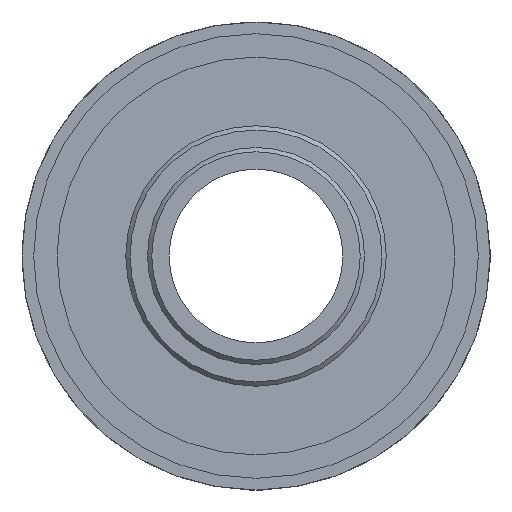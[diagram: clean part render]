
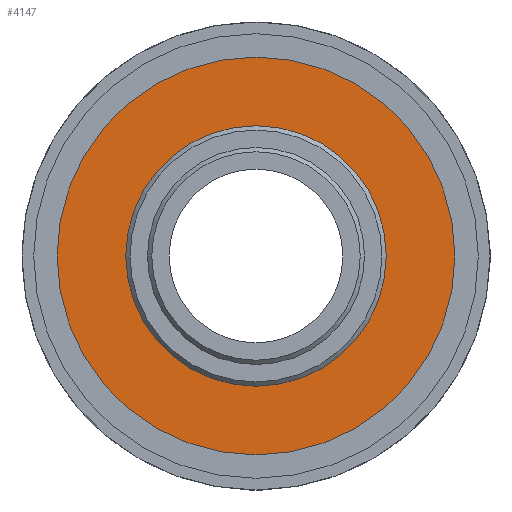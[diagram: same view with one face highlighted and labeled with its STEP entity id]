
A CAD part, left-side view. The second image highlights one B-rep face of the part: STEP entity #4147.
In plain terms, the highlighted planar face has unit normal (-1, 0, 0).
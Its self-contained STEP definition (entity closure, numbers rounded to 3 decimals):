
#290=FACE_BOUND('',#857,.T.);
#312=CIRCLE('',#4440,24.225);
#564=FACE_OUTER_BOUND('',#856,.T.);
#856=EDGE_LOOP('',(#2781));
#857=EDGE_LOOP('',(#2782,#2783,#2784,#2785,#2786,#2787,#2788,#2789,#2790,
#2791,#2792,#2793));
#1132=LINE('',#6226,#1408);
#1136=LINE('',#6234,#1412);
#1139=LINE('',#6240,#1415);
#1142=LINE('',#6246,#1418);
#1145=LINE('',#6252,#1421);
#1148=LINE('',#6258,#1424);
#1151=LINE('',#6264,#1427);
#1154=LINE('',#6270,#1430);
#1158=LINE('',#6278,#1434);
#1162=LINE('',#6287,#1438);
#1164=LINE('',#6290,#1440);
#1167=LINE('',#6294,#1443);
#1408=VECTOR('',#4926,0.458);
#1412=VECTOR('',#4932,12.692);
#1415=VECTOR('',#4937,0.458);
#1418=VECTOR('',#4942,12.692);
#1421=VECTOR('',#4947,0.458);
#1424=VECTOR('',#4952,12.692);
#1427=VECTOR('',#4957,0.458);
#1430=VECTOR('',#4962,12.692);
#1434=VECTOR('',#4968,0.458);
#1438=VECTOR('',#4974,0.458);
#1440=VECTOR('',#4978,12.692);
#1443=VECTOR('',#4983,12.692);
#1684=VERTEX_POINT('',#6224);
#1685=VERTEX_POINT('',#6225);
#1688=VERTEX_POINT('',#6233);
#1690=VERTEX_POINT('',#6239);
#1692=VERTEX_POINT('',#6245);
#1694=VERTEX_POINT('',#6251);
#1696=VERTEX_POINT('',#6257);
#1698=VERTEX_POINT('',#6263);
#1700=VERTEX_POINT('',#6269);
#1703=VERTEX_POINT('',#6277);
#1706=VERTEX_POINT('',#6284);
#1707=VERTEX_POINT('',#6286);
#1716=VERTEX_POINT('',#6320);
#2064=EDGE_CURVE('',#1684,#1685,#1132,.F.);
#2068=EDGE_CURVE('',#1688,#1685,#1136,.T.);
#2071=EDGE_CURVE('',#1688,#1690,#1139,.F.);
#2074=EDGE_CURVE('',#1692,#1690,#1142,.T.);
#2077=EDGE_CURVE('',#1692,#1694,#1145,.F.);
#2080=EDGE_CURVE('',#1696,#1694,#1148,.T.);
#2083=EDGE_CURVE('',#1696,#1698,#1151,.F.);
#2086=EDGE_CURVE('',#1700,#1698,#1154,.T.);
#2090=EDGE_CURVE('',#1700,#1703,#1158,.F.);
#2094=EDGE_CURVE('',#1706,#1707,#1162,.F.);
#2096=EDGE_CURVE('',#1706,#1703,#1164,.T.);
#2099=EDGE_CURVE('',#1684,#1707,#1167,.T.);
#2108=EDGE_CURVE('',#1716,#1716,#312,.T.);
#2781=ORIENTED_EDGE('',*,*,#2108,.F.);
#2782=ORIENTED_EDGE('',*,*,#2086,.T.);
#2783=ORIENTED_EDGE('',*,*,#2083,.F.);
#2784=ORIENTED_EDGE('',*,*,#2080,.T.);
#2785=ORIENTED_EDGE('',*,*,#2077,.F.);
#2786=ORIENTED_EDGE('',*,*,#2074,.T.);
#2787=ORIENTED_EDGE('',*,*,#2071,.F.);
#2788=ORIENTED_EDGE('',*,*,#2068,.T.);
#2789=ORIENTED_EDGE('',*,*,#2064,.F.);
#2790=ORIENTED_EDGE('',*,*,#2099,.T.);
#2791=ORIENTED_EDGE('',*,*,#2094,.F.);
#2792=ORIENTED_EDGE('',*,*,#2096,.T.);
#2793=ORIENTED_EDGE('',*,*,#2090,.F.);
#3999=PLANE('',#4442);
#4147=ADVANCED_FACE('',(#564,#290),#3999,.F.);
#4440=AXIS2_PLACEMENT_3D('',#6321,#5018,#5019);
#4442=AXIS2_PLACEMENT_3D('',#6324,#5022,#5023);
#4926=DIRECTION('',(0.,0.866,0.5));
#4932=DIRECTION('',(0.,1.,0.));
#4937=DIRECTION('',(0.,0.866,-0.5));
#4942=DIRECTION('',(0.,0.5,-0.866));
#4947=DIRECTION('',(0.,0.,-1.));
#4952=DIRECTION('',(0.,-0.5,-0.866));
#4957=DIRECTION('',(0.,-0.866,-0.5));
#4962=DIRECTION('',(0.,-1.,0.));
#4968=DIRECTION('',(0.,-0.866,0.5));
#4974=DIRECTION('',(0.,0.,1.));
#4978=DIRECTION('',(0.,-0.5,0.866));
#4983=DIRECTION('',(0.,0.5,0.866));
#5018=DIRECTION('center_axis',(1.,0.,0.));
#5019=DIRECTION('ref_axis',(0.,0.,-1.));
#5022=DIRECTION('center_axis',(1.,0.,0.));
#5023=DIRECTION('ref_axis',(0.,0.,-1.));
#6224=CARTESIAN_POINT('',(0.285,6.742,-11.22));
#6225=CARTESIAN_POINT('',(0.285,6.346,-11.449));
#6226=CARTESIAN_POINT('',(0.285,6.544,-11.335));
#6233=CARTESIAN_POINT('',(0.285,-6.346,-11.449));
#6234=CARTESIAN_POINT('',(0.285,-3.305,-11.449));
#6239=CARTESIAN_POINT('',(0.285,-6.742,-11.22));
#6240=CARTESIAN_POINT('',(0.285,-6.544,-11.335));
#6245=CARTESIAN_POINT('',(0.285,-13.088,-0.229));
#6246=CARTESIAN_POINT('',(0.285,-11.568,-2.862));
#6251=CARTESIAN_POINT('',(0.285,-13.088,0.229));
#6252=CARTESIAN_POINT('',(0.285,-13.088,0.));
#6257=CARTESIAN_POINT('',(0.285,-6.742,11.22));
#6258=CARTESIAN_POINT('',(0.285,-8.263,8.587));
#6263=CARTESIAN_POINT('',(0.285,-6.346,11.449));
#6264=CARTESIAN_POINT('',(0.285,-6.544,11.335));
#6269=CARTESIAN_POINT('',(0.285,6.346,11.449));
#6270=CARTESIAN_POINT('',(0.285,3.305,11.449));
#6277=CARTESIAN_POINT('',(0.285,6.742,11.22));
#6278=CARTESIAN_POINT('',(0.285,6.544,11.335));
#6284=CARTESIAN_POINT('',(0.285,13.088,0.229));
#6286=CARTESIAN_POINT('',(0.285,13.088,-0.229));
#6287=CARTESIAN_POINT('',(0.285,13.088,0.));
#6290=CARTESIAN_POINT('',(0.285,11.568,2.862));
#6294=CARTESIAN_POINT('',(0.285,8.263,-8.587));
#6320=CARTESIAN_POINT('',(0.285,0.,24.225));
#6321=CARTESIAN_POINT('Origin',(0.285,0.,0.));
#6324=CARTESIAN_POINT('Origin',(0.285,0.,
0.));
